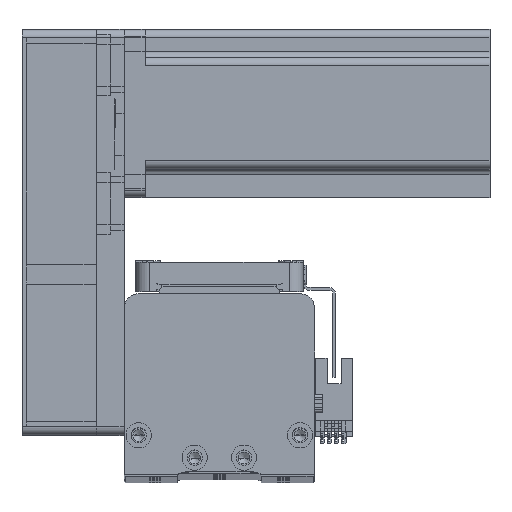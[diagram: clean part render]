
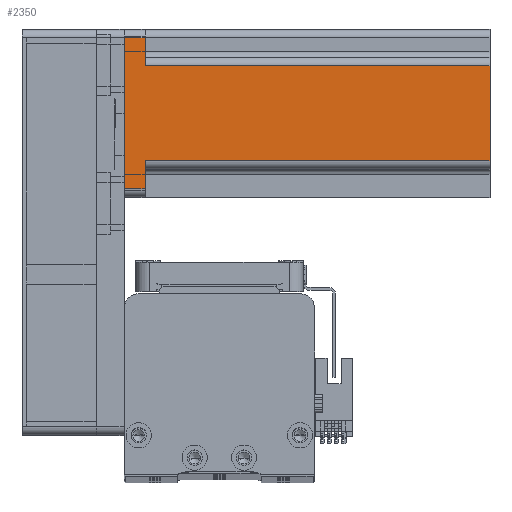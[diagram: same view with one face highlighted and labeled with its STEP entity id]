
A CAD part, top view. The second image highlights one B-rep face of the part: STEP entity #2350.
In plain terms, the highlighted planar face has unit normal (0, 0, 1) as drawn and (0, 1, 0) by its records, which use the part's own axes.
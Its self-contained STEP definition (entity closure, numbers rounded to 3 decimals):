
#506 = VERTEX_POINT ( 'NONE', #3502 ) ;
#839 = VECTOR ( 'NONE', #42104, 1000. ) ;
#1992 = CARTESIAN_POINT ( 'NONE',  ( -17., 30., 130.7 ) ) ;
#2194 = VERTEX_POINT ( 'NONE', #40047 ) ;
#2221 = CARTESIAN_POINT ( 'NONE',  ( -17., 30., 7.5 ) ) ;
#2350 = ADVANCED_FACE ( 'NONE', ( #50958 ), #9258, .F. ) ;
#2752 = VERTEX_POINT ( 'NONE', #8156 ) ;
#3340 = DIRECTION ( 'NONE',  ( 0., 0., 1. ) ) ;
#3502 = CARTESIAN_POINT ( 'NONE',  ( 27., 30., 7.5 ) ) ;
#4674 = ORIENTED_EDGE ( 'NONE', *, *, #36651, .T. ) ;
#7076 = EDGE_CURVE ( 'NONE', #2194, #40781, #36285, .T. ) ;
#7495 = AXIS2_PLACEMENT_3D ( 'NONE', #9435, #37709, #13512 ) ;
#7634 = ORIENTED_EDGE ( 'NONE', *, *, #32057, .T. ) ;
#8156 = CARTESIAN_POINT ( 'NONE',  ( -27., 30., 7.5 ) ) ;
#8844 = EDGE_CURVE ( 'NONE', #44651, #40781, #29767, .T. ) ;
#9181 = ORIENTED_EDGE ( 'NONE', *, *, #42201, .F. ) ;
#9258 = PLANE ( 'NONE',  #7495 ) ;
#9435 = CARTESIAN_POINT ( 'NONE',  ( 30., 30., 130.7 ) ) ;
#12279 = DIRECTION ( 'NONE',  ( 0., 0., -1. ) ) ;
#12948 = ORIENTED_EDGE ( 'NONE', *, *, #13198, .T. ) ;
#13198 = EDGE_CURVE ( 'NONE', #506, #42131, #47268, .T. ) ;
#13512 = DIRECTION ( 'NONE',  ( 1., 0., 0. ) ) ;
#17749 = CARTESIAN_POINT ( 'NONE',  ( 20., 30., 7.5 ) ) ;
#18053 = CARTESIAN_POINT ( 'NONE',  ( 17., 30., 130.7 ) ) ;
#19274 = CARTESIAN_POINT ( 'NONE',  ( -27., 30., 130.7 ) ) ;
#20231 = VECTOR ( 'NONE', #45239, 1000. ) ;
#20742 = EDGE_CURVE ( 'NONE', #2194, #32710, #24826, .T. ) ;
#23266 = CARTESIAN_POINT ( 'NONE',  ( -17., 30., 130.7 ) ) ;
#23579 = VECTOR ( 'NONE', #50280, 1000. ) ;
#24371 = EDGE_CURVE ( 'NONE', #2752, #44651, #41673, .T. ) ;
#24826 = LINE ( 'NONE', #18053, #23579 ) ;
#25871 = VECTOR ( 'NONE', #12279, 1000. ) ;
#26780 = ORIENTED_EDGE ( 'NONE', *, *, #8844, .T. ) ;
#27591 = VERTEX_POINT ( 'NONE', #29046 ) ;
#29046 = CARTESIAN_POINT ( 'NONE',  ( -27., 30., 0. ) ) ;
#29767 = LINE ( 'NONE', #1992, #49897 ) ;
#30539 = EDGE_LOOP ( 'NONE', ( #50472, #26780, #39289, #50522, #9181, #12948, #7634, #4674 ) ) ;
#31075 = LINE ( 'NONE', #19274, #51188 ) ;
#32057 = EDGE_CURVE ( 'NONE', #42131, #27591, #41237, .T. ) ;
#32710 = VERTEX_POINT ( 'NONE', #38044 ) ;
#33497 = CARTESIAN_POINT ( 'NONE',  ( 27., 30., 0. ) ) ;
#36285 = LINE ( 'NONE', #49892, #44462 ) ;
#36467 = CARTESIAN_POINT ( 'NONE',  ( 27., 30., 130.7 ) ) ;
#36651 = EDGE_CURVE ( 'NONE', #27591, #2752, #31075, .T. ) ;
#37709 = DIRECTION ( 'NONE',  ( 0., -1., 0. ) ) ;
#38044 = CARTESIAN_POINT ( 'NONE',  ( 17., 30., 7.5 ) ) ;
#39289 = ORIENTED_EDGE ( 'NONE', *, *, #7076, .F. ) ;
#39994 = VECTOR ( 'NONE', #44123, 1000. ) ;
#40047 = CARTESIAN_POINT ( 'NONE',  ( 17., 30., 130.7 ) ) ;
#40781 = VERTEX_POINT ( 'NONE', #23266 ) ;
#41237 = LINE ( 'NONE', #48128, #39994 ) ;
#41673 = LINE ( 'NONE', #49247, #20231 ) ;
#42104 = DIRECTION ( 'NONE',  ( -1., 0., 0. ) ) ;
#42131 = VERTEX_POINT ( 'NONE', #33497 ) ;
#42201 = EDGE_CURVE ( 'NONE', #506, #32710, #43775, .T. ) ;
#43775 = LINE ( 'NONE', #17749, #839 ) ;
#44123 = DIRECTION ( 'NONE',  ( -1., 0., 0. ) ) ;
#44462 = VECTOR ( 'NONE', #45888, 1000. ) ;
#44651 = VERTEX_POINT ( 'NONE', #2221 ) ;
#45239 = DIRECTION ( 'NONE',  ( 1., 0., 0. ) ) ;
#45888 = DIRECTION ( 'NONE',  ( -1., 0., 0. ) ) ;
#47268 = LINE ( 'NONE', #36467, #25871 ) ;
#48128 = CARTESIAN_POINT ( 'NONE',  ( 30., 30., 0. ) ) ;
#49247 = CARTESIAN_POINT ( 'NONE',  ( -20., 30., 7.5 ) ) ;
#49892 = CARTESIAN_POINT ( 'NONE',  ( 30., 30., 130.7 ) ) ;
#49897 = VECTOR ( 'NONE', #50285, 1000. ) ;
#50280 = DIRECTION ( 'NONE',  ( 0., 0., -1. ) ) ;
#50285 = DIRECTION ( 'NONE',  ( 0., 0., 1. ) ) ;
#50472 = ORIENTED_EDGE ( 'NONE', *, *, #24371, .T. ) ;
#50522 = ORIENTED_EDGE ( 'NONE', *, *, #20742, .T. ) ;
#50958 = FACE_OUTER_BOUND ( 'NONE', #30539, .T. ) ;
#51188 = VECTOR ( 'NONE', #3340, 1000. ) ;
